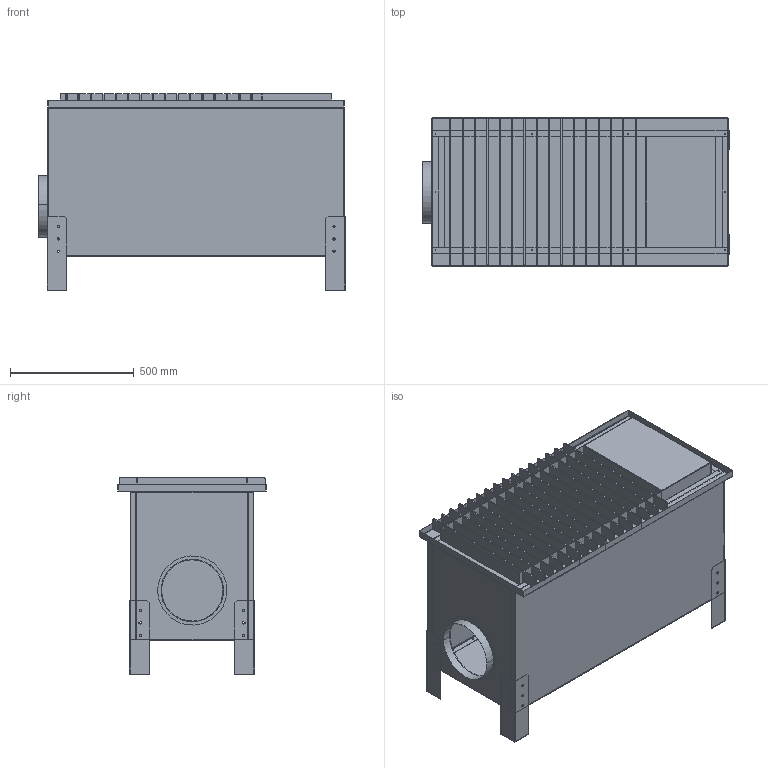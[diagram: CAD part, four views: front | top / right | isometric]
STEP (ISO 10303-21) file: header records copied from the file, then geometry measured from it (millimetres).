
FILE_DESCRIPTION(('STEP AP214'),'1');
FILE_NAME('02-003 svejsebord.stp','2017-01-18T07:45:10',(' '),(' '),'Spatial InterOp 3D',' ',' ');
FILE_SCHEMA(('automotive_design'));
Length unit declared in the file: metre
Products named in the file (14): ID_1-1; ID_1; ID_1-0; ID_1-2; ID_2; ID_3; 02-003 svejsebord; ID_1-3; ID_1-4; ID_1-5; ID_1-6; ID_1-7; ID_4; ID_5
Assembly tree (33 placements, depth 3):
  02-003 svejsebord
    ID_1-1
      ID_1
      ID_1-0  x2
      ID_1-2  x2
      ID_2  x16
      ID_3
    ID_1-3
    ID_1-4
    ID_1-5
    ID_1-6
    ID_1-7
    ID_4  x4
    ID_5
Bounding box: 1239.12 x 600 x 799.75 mm (x, y, z)
Volume: 7455400.7 mm3; surface area: 8557751.4 mm2
Topology: 32 solids, 32 shells, 945 faces, 2496 edges, 1616 vertices
Faces by surface type: plane 575, cylinder 362, bspline 8
Entity records: 24152 total; most frequent: DIRECTION 3322, CARTESIAN_POINT 3298, ORIENTED_EDGE 3180, EDGE_CURVE 1590, AXIS2_PLACEMENT_3D 1116, LINE 1090, VECTOR 1090, VERTEX_POINT 1028
